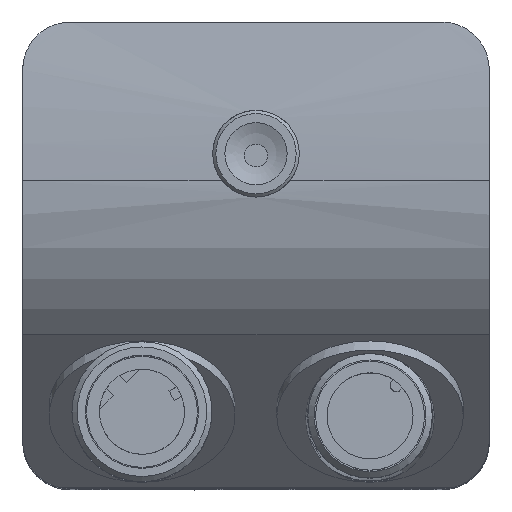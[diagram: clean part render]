
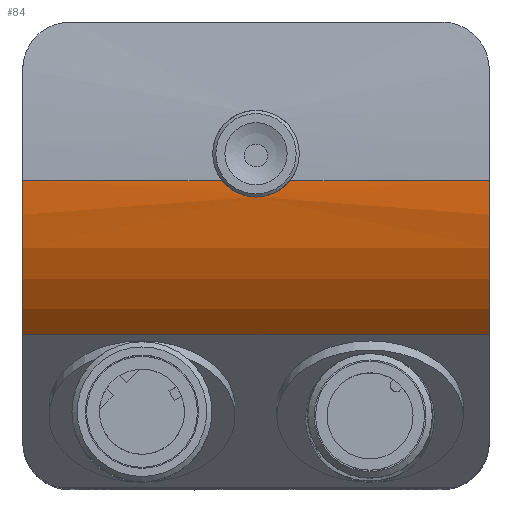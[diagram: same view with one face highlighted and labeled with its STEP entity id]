
A CAD part, top view. The second image highlights one B-rep face of the part: STEP entity #84.
In plain terms, the highlighted cylindrical face has radius 21 mm (diameter 42 mm), a partial arc.
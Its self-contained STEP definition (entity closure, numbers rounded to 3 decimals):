
#84 = ADVANCED_FACE( '', ( #402 ), #403, .T. );
#402 = FACE_OUTER_BOUND( '', #1145, .T. );
#403 = CYLINDRICAL_SURFACE( '', #1146, 21. );
#1145 = EDGE_LOOP( '', ( #1979, #1980, #1981, #1982, #1983, #1984 ) );
#1146 = AXIS2_PLACEMENT_3D( '', #1985, #1986, #1987 );
#1979 = ORIENTED_EDGE( '', *, *, #4067, .F. );
#1980 = ORIENTED_EDGE( '', *, *, #4069, .T. );
#1981 = ORIENTED_EDGE( '', *, *, #4070, .T. );
#1982 = ORIENTED_EDGE( '', *, *, #4071, .F. );
#1983 = ORIENTED_EDGE( '', *, *, #4072, .F. );
#1984 = ORIENTED_EDGE( '', *, *, #4073, .T. );
#1985 = CARTESIAN_POINT( '', ( 22.5, 22.31, -29.77 ) );
#1986 = DIRECTION( '', ( 1., 0., 0. ) );
#1987 = DIRECTION( '', ( 0., 0., 1. ) );
#4067 = EDGE_CURVE( '', #4719, #4718, #4721, .T. );
#4069 = EDGE_CURVE( '', #4719, #4724, #4725, .T. );
#4070 = EDGE_CURVE( '', #4724, #4726, #4727, .T. );
#4071 = EDGE_CURVE( '', #4728, #4726, #4729, .T. );
#4072 = EDGE_CURVE( '', #4730, #4728, #4731, .T. );
#4073 = EDGE_CURVE( '', #4730, #4718, #4732, .T. );
#4718 = VERTEX_POINT( '', #5897 );
#4719 = VERTEX_POINT( '', #5898 );
#4721 = B_SPLINE_CURVE_WITH_KNOTS( '', 3, ( #5950, #5951, #5952, #5953, #5954, #5955, #5956, #5957, #5958, #5959, #5960, #5961, #5962, #5963, #5964, #5965, #5966, #5967 ), .UNSPECIFIED., .F., .F., ( 4, 2, 2, 2, 2, 2, 2, 2, 4 ), ( 0., 0.001, 0.002, 0.003, 0.004, 0.005, 0.006, 0.007, 0.007 ), .UNSPECIFIED. );
#4724 = VERTEX_POINT( '', #5970 );
#4725 = LINE( '', #5971, #5972 );
#4726 = VERTEX_POINT( '', #5973 );
#4727 = CIRCLE( '', #5974, 21. );
#4728 = VERTEX_POINT( '', #5975 );
#4729 = LINE( '', #5976, #5977 );
#4730 = VERTEX_POINT( '', #5978 );
#4731 = CIRCLE( '', #5979, 21. );
#4732 = LINE( '', #5980, #5981 );
#5897 = CARTESIAN_POINT( '', ( 3.275, 22.31, -8.77 ) );
#5898 = CARTESIAN_POINT( '', ( -3.275, 22.31, -8.77 ) );
#5950 = CARTESIAN_POINT( '', ( -3.275, 22.31, -8.77 ) );
#5951 = CARTESIAN_POINT( '', ( -3.078, 22.062, -8.77 ) );
#5952 = CARTESIAN_POINT( '', ( -2.858, 21.84, -8.774 ) );
#5953 = CARTESIAN_POINT( '', ( -2.37, 21.449, -8.787 ) );
#5954 = CARTESIAN_POINT( '', ( -2.1, 21.278, -8.795 ) );
#5955 = CARTESIAN_POINT( '', ( -1.538, 21.006, -8.81 ) );
#5956 = CARTESIAN_POINT( '', ( -1.243, 20.902, -8.817 ) );
#5957 = CARTESIAN_POINT( '', ( -0.626, 20.76, -8.827 ) );
#5958 = CARTESIAN_POINT( '', ( -0.316, 20.725, -8.83 ) );
#5959 = CARTESIAN_POINT( '', ( 0.309, 20.725, -8.83 ) );
#5960 = CARTESIAN_POINT( '', ( 0.627, 20.761, -8.827 ) );
#5961 = CARTESIAN_POINT( '', ( 1.236, 20.9, -8.817 ) );
#5962 = CARTESIAN_POINT( '', ( 1.532, 21.003, -8.81 ) );
#5963 = CARTESIAN_POINT( '', ( 2.101, 21.278, -8.795 ) );
#5964 = CARTESIAN_POINT( '', ( 2.365, 21.445, -8.787 ) );
#5965 = CARTESIAN_POINT( '', ( 2.853, 21.836, -8.774 ) );
#5966 = CARTESIAN_POINT( '', ( 3.078, 22.062, -8.77 ) );
#5967 = CARTESIAN_POINT( '', ( 3.275, 22.31, -8.77 ) );
#5970 = CARTESIAN_POINT( '', ( -22.5, 22.31, -8.77 ) );
#5971 = CARTESIAN_POINT( '', ( 22.5, 22.31, -8.77 ) );
#5972 = VECTOR( '', #7912, 1000. );
#5973 = CARTESIAN_POINT( '', ( -22.5, 7.463, -14.919 ) );
#5974 = AXIS2_PLACEMENT_3D( '', #7913, #7914, #7915 );
#5975 = CARTESIAN_POINT( '', ( 22.5, 7.463, -14.919 ) );
#5976 = CARTESIAN_POINT( '', ( 22.5, 7.463, -14.919 ) );
#5977 = VECTOR( '', #7916, 1000. );
#5978 = CARTESIAN_POINT( '', ( 22.5, 22.31, -8.77 ) );
#5979 = AXIS2_PLACEMENT_3D( '', #7917, #7918, #7919 );
#5980 = CARTESIAN_POINT( '', ( 22.5, 22.31, -8.77 ) );
#5981 = VECTOR( '', #7920, 1000. );
#7912 = DIRECTION( '', ( -1., 0., 0. ) );
#7913 = CARTESIAN_POINT( '', ( -22.5, 22.31, -29.77 ) );
#7914 = DIRECTION( '', ( 1., 0., 0. ) );
#7915 = DIRECTION( '', ( 0., 0., -1. ) );
#7916 = DIRECTION( '', ( -1., 0., 0. ) );
#7917 = CARTESIAN_POINT( '', ( 22.5, 22.31, -29.77 ) );
#7918 = DIRECTION( '', ( 1., 0., 0. ) );
#7919 = DIRECTION( '', ( 0., 0., -1. ) );
#7920 = DIRECTION( '', ( -1., 0., 0. ) );
